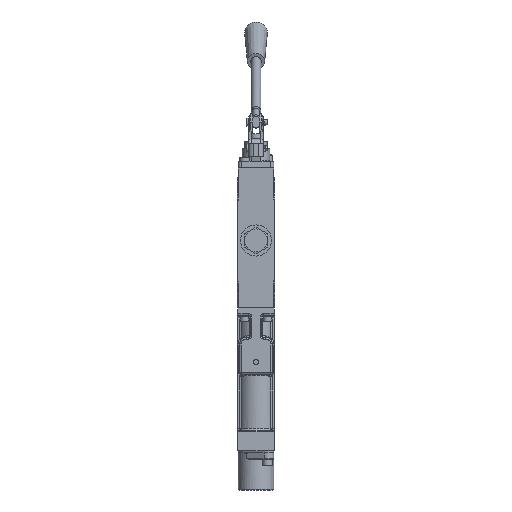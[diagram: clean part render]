
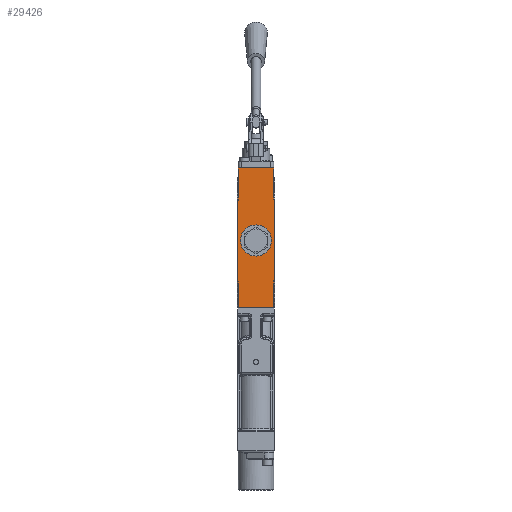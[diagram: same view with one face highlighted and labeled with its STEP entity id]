
A CAD part, front view. The second image highlights one B-rep face of the part: STEP entity #29426.
In plain terms, the highlighted planar face has unit normal (0, -1, 0).
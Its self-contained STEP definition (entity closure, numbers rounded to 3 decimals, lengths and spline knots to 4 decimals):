
#680=B_SPLINE_CURVE_WITH_KNOTS('',3,(#46983,#46984,#46985,#46986),
 .UNSPECIFIED.,.F.,.F.,(4,4),(0.1118,0.6396),
 .UNSPECIFIED.);
#681=B_SPLINE_CURVE_WITH_KNOTS('',3,(#46993,#46994,#46995,#46996),
 .UNSPECIFIED.,.F.,.F.,(4,4),(1.3325,1.8604),
 .UNSPECIFIED.);
#686=B_SPLINE_CURVE_WITH_KNOTS('',3,(#47078,#47079,#47080,#47081,#47082,
#47083),.UNSPECIFIED.,.F.,.F.,(4,2,4),(0.1096,0.342,
0.6354),.UNSPECIFIED.);
#695=B_SPLINE_CURVE_WITH_KNOTS('',3,(#47188,#47189,#47190,#47191,#47192,
#47193),.UNSPECIFIED.,.F.,.F.,(4,2,4),(1.3367,1.6302,
1.8625),.UNSPECIFIED.);
#1215=FACE_BOUND('',#4990,.T.);
#1716=PLANE('',#31901);
#2996=FACE_OUTER_BOUND('',#4989,.T.);
#4989=EDGE_LOOP('',(#21277,#21278,#21279,#21280,#21281,#21282,#21283,#21284,
#21285,#21286,#21287,#21288));
#4990=EDGE_LOOP('',(#21289));
#6603=LINE('',#44275,#8663);
#6917=LINE('',#46179,#8977);
#6967=LINE('',#46489,#9027);
#7063=LINE('',#47034,#9123);
#7066=LINE('',#47047,#9126);
#7077=LINE('',#47186,#9137);
#7078=LINE('',#47194,#9138);
#7079=LINE('',#47195,#9139);
#8663=VECTOR('',#34756,1.342);
#8977=VECTOR('',#36232,2.8356);
#9027=VECTOR('',#36384,2.8356);
#9123=VECTOR('',#36816,0.9443);
#9126=VECTOR('',#36827,0.9443);
#9137=VECTOR('',#36922,1.342);
#9138=VECTOR('',#36923,1.1343);
#9139=VECTOR('',#36924,1.1343);
#10911=CIRCLE('',#31544,0.594);
#12192=VERTEX_POINT('',#44272);
#12193=VERTEX_POINT('',#44274);
#12592=VERTEX_POINT('',#45938);
#12666=VERTEX_POINT('',#46176);
#12667=VERTEX_POINT('',#46178);
#12776=VERTEX_POINT('',#46486);
#12777=VERTEX_POINT('',#46488);
#12908=VERTEX_POINT('',#46982);
#12910=VERTEX_POINT('',#46991);
#12915=VERTEX_POINT('',#47032);
#12916=VERTEX_POINT('',#47036);
#12921=VERTEX_POINT('',#47045);
#12945=VERTEX_POINT('',#47187);
#14957=EDGE_CURVE('',#12193,#12192,#6603,.T.);
#15572=EDGE_CURVE('',#12592,#12592,#10911,.T.);
#15654=EDGE_CURVE('',#12667,#12666,#6917,.T.);
#15764=EDGE_CURVE('',#12777,#12776,#6967,.T.);
#15962=EDGE_CURVE('',#12667,#12908,#680,.T.);
#15966=EDGE_CURVE('',#12910,#12666,#681,.T.);
#15975=EDGE_CURVE('',#12915,#12910,#7063,.T.);
#15981=EDGE_CURVE('',#12916,#12921,#7066,.T.);
#15987=EDGE_CURVE('',#12777,#12921,#686,.T.);
#16026=EDGE_CURVE('',#12915,#12916,#7077,.T.);
#16027=EDGE_CURVE('',#12945,#12776,#695,.T.);
#16028=EDGE_CURVE('',#12945,#12193,#7078,.T.);
#16029=EDGE_CURVE('',#12908,#12192,#7079,.T.);
#21277=ORIENTED_EDGE('',*,*,#15654,.T.);
#21278=ORIENTED_EDGE('',*,*,#15966,.F.);
#21279=ORIENTED_EDGE('',*,*,#15975,.F.);
#21280=ORIENTED_EDGE('',*,*,#16026,.T.);
#21281=ORIENTED_EDGE('',*,*,#15981,.T.);
#21282=ORIENTED_EDGE('',*,*,#15987,.F.);
#21283=ORIENTED_EDGE('',*,*,#15764,.T.);
#21284=ORIENTED_EDGE('',*,*,#16027,.F.);
#21285=ORIENTED_EDGE('',*,*,#16028,.T.);
#21286=ORIENTED_EDGE('',*,*,#14957,.T.);
#21287=ORIENTED_EDGE('',*,*,#16029,.F.);
#21288=ORIENTED_EDGE('',*,*,#15962,.F.);
#21289=ORIENTED_EDGE('',*,*,#15572,.T.);
#29426=ADVANCED_FACE('',(#2996,#1215),#1716,.T.);
#31544=AXIS2_PLACEMENT_3D('',#45939,#36029,#36030);
#31901=AXIS2_PLACEMENT_3D('',#47185,#36920,#36921);
#34756=DIRECTION('',(-1.,0.,0.));
#36029=DIRECTION('center_axis',(0.,1.,0.));
#36030=DIRECTION('ref_axis',(1.,0.,0.));
#36232=DIRECTION('',(0.,0.,-1.));
#36384=DIRECTION('',(0.,0.,1.));
#36816=DIRECTION('',(0.,0.,1.));
#36827=DIRECTION('',(0.,0.,1.));
#36920=DIRECTION('center_axis',(0.,-1.,0.));
#36921=DIRECTION('ref_axis',(0.,0.,-1.));
#36922=DIRECTION('',(1.,0.,0.));
#36923=DIRECTION('',(0.,0.,1.));
#36924=DIRECTION('',(0.,0.,1.));
#44272=CARTESIAN_POINT('',(-0.671,-1.656,2.6725));
#44274=CARTESIAN_POINT('',(0.671,-1.656,2.6725));
#44275=CARTESIAN_POINT('',(0.6948,-1.656,2.6725));
#45938=CARTESIAN_POINT('',(0.594,-1.656,-0.0935));
#45939=CARTESIAN_POINT('Origin',(0.,-1.656,-0.0935));
#46176=CARTESIAN_POINT('',(-0.7185,-1.656,-1.5123));
#46178=CARTESIAN_POINT('',(-0.7185,-1.656,1.3233));
#46179=CARTESIAN_POINT('',(-0.7185,-1.656,1.3363));
#46486=CARTESIAN_POINT('',(0.7185,-1.656,1.3233));
#46488=CARTESIAN_POINT('',(0.7185,-1.656,-1.5123));
#46489=CARTESIAN_POINT('',(0.7185,-1.656,-1.3358));
#46982=CARTESIAN_POINT('',(-0.671,-1.656,1.5382));
#46983=CARTESIAN_POINT('Ctrl Pts',(-0.7185,-1.656,1.3233));
#46984=CARTESIAN_POINT('Ctrl Pts',(-0.6947,-1.656,1.3924));
#46985=CARTESIAN_POINT('Ctrl Pts',(-0.671,-1.656,1.4689));
#46986=CARTESIAN_POINT('Ctrl Pts',(-0.671,-1.656,1.5382));
#46991=CARTESIAN_POINT('',(-0.671,-1.656,-1.7272));
#46993=CARTESIAN_POINT('Ctrl Pts',(-0.671,-1.656,-1.7272));
#46994=CARTESIAN_POINT('Ctrl Pts',(-0.671,-1.656,-1.6579));
#46995=CARTESIAN_POINT('Ctrl Pts',(-0.6947,-1.656,-1.5814));
#46996=CARTESIAN_POINT('Ctrl Pts',(-0.7185,-1.656,-1.5123));
#47032=CARTESIAN_POINT('',(-0.671,-1.656,-2.6715));
#47034=CARTESIAN_POINT('',(-0.671,-1.656,0.));
#47036=CARTESIAN_POINT('',(0.671,-1.656,-2.6715));
#47045=CARTESIAN_POINT('',(0.671,-1.656,-1.7272));
#47047=CARTESIAN_POINT('',(0.671,-1.656,0.));
#47078=CARTESIAN_POINT('Ctrl Pts',(0.7185,-1.656,-1.5123));
#47079=CARTESIAN_POINT('Ctrl Pts',(0.7077,-1.656,-1.5436));
#47080=CARTESIAN_POINT('Ctrl Pts',(0.6971,-1.656,-1.5765));
#47081=CARTESIAN_POINT('Ctrl Pts',(0.6795,-1.656,-1.6433));
#47082=CARTESIAN_POINT('Ctrl Pts',(0.671,-1.656,-1.6887));
#47083=CARTESIAN_POINT('Ctrl Pts',(0.671,-1.656,-1.7272));
#47185=CARTESIAN_POINT('Origin',(0.671,-1.656,0.));
#47186=CARTESIAN_POINT('',(-0.0237,-1.656,-2.6715));
#47187=CARTESIAN_POINT('',(0.671,-1.656,1.5382));
#47188=CARTESIAN_POINT('Ctrl Pts',(0.671,-1.656,1.5382));
#47189=CARTESIAN_POINT('Ctrl Pts',(0.671,-1.656,1.4997));
#47190=CARTESIAN_POINT('Ctrl Pts',(0.6795,-1.656,1.4543));
#47191=CARTESIAN_POINT('Ctrl Pts',(0.6971,-1.656,1.3875));
#47192=CARTESIAN_POINT('Ctrl Pts',(0.7077,-1.656,1.3546));
#47193=CARTESIAN_POINT('Ctrl Pts',(0.7185,-1.656,1.3233));
#47194=CARTESIAN_POINT('',(0.671,-1.656,0.));
#47195=CARTESIAN_POINT('',(-0.671,-1.656,0.));
